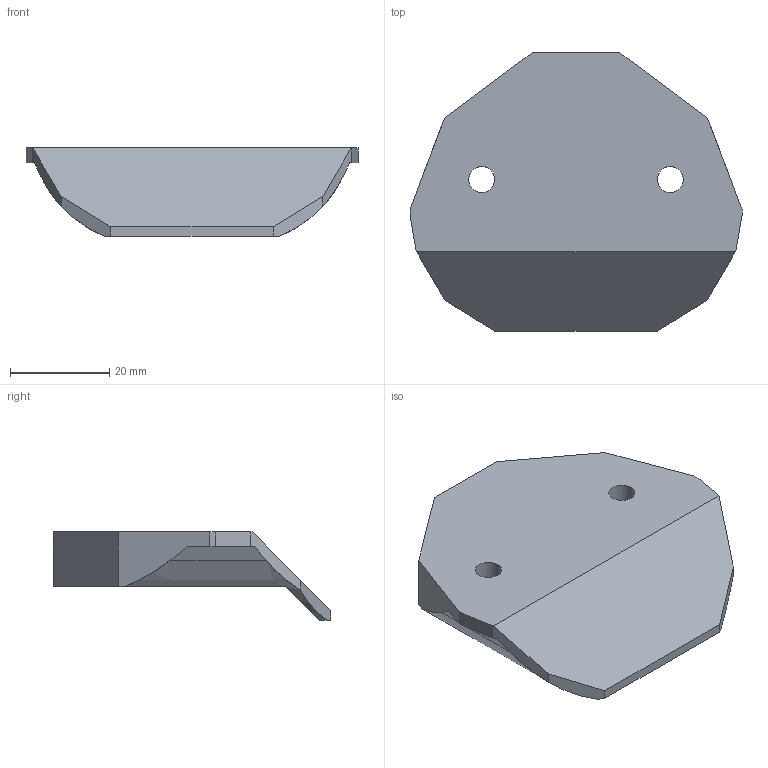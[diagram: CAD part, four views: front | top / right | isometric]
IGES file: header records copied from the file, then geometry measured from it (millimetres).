
Start section: Data from Parasolid IGES Translator 20.0.26, Copyright(c) 2006 Siemens P LM Software. All Rights Reserved.
Global section: file name: 9262105.igs; native system: By Siemens PLM Incorporated; preprocessor: XPlus GENERIC/IGES 20.0.26; author: Noname; organization: Noname; date: 20210407.163512; units: millimetre
Bounding box: 66.9 x 56 x 17.8 mm (x, y, z)
Surface area: 8074.1 mm2 (no closed solid volume)
Topology: 0 solids, 0 shells, 27 faces, 150 edges, 148 vertices
Faces by surface type: extrusion 23, revolution 4
